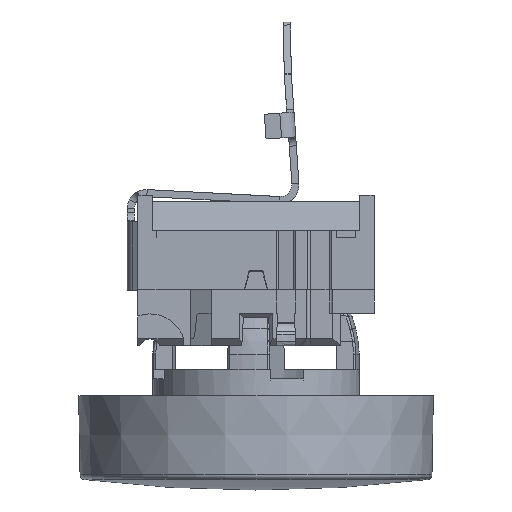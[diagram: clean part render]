
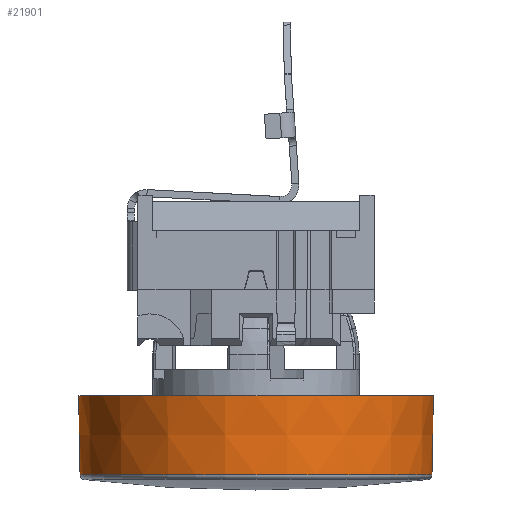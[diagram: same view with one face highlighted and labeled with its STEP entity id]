
A CAD part, left-side view. The second image highlights one B-rep face of the part: STEP entity #21901.
In plain terms, the highlighted conical face has half-angle 1 degrees and reference radius 7.45 mm.
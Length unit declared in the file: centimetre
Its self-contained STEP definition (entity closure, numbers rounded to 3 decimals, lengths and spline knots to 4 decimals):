
#991=FACE_BOUND($,#3081,.T.);
#1058=CONICAL_SURFACE($,#23163,0.745,1.);
#1232=CIRCLE($,#23160,0.7512);
#1234=CIRCLE($,#23164,0.7453);
#1929=FACE_OUTER_BOUND($,#3080,.T.);
#3080=EDGE_LOOP($,(#14488));
#3081=EDGE_LOOP($,(#14489));
#8445=VERTEX_POINT($,#33605);
#8447=VERTEX_POINT($,#33611);
#10742=EDGE_CURVE($,#8445,#8445,#1232,.T.);
#10744=EDGE_CURVE($,#8447,#8447,#1234,.T.);
#14488=ORIENTED_EDGE($,*,*,#10742,.F.);
#14489=ORIENTED_EDGE($,*,*,#10744,.T.);
#21901=ADVANCED_FACE($,(#1929,#991),#1058,.T.);
#23160=AXIS2_PLACEMENT_3D($,#33606,#25430,#25431);
#23163=AXIS2_PLACEMENT_3D($,#33610,#25436,#25437);
#23164=AXIS2_PLACEMENT_3D($,#33612,#25438,#25439);
#25430=DIRECTION('center_axis',(0.,0.,
1.));
#25431=DIRECTION('ref_axis',(0.,-1.,0.));
#25436=DIRECTION('center_axis',(0.,0.,
1.));
#25437=DIRECTION('ref_axis',(0.,-1.,0.));
#25438=DIRECTION('center_axis',(0.,0.,
1.));
#25439=DIRECTION('ref_axis',(0.,1.,0.));
#33605=CARTESIAN_POINT('',(0.,0.7512,-0.449));
#33606=CARTESIAN_POINT('Origin',(0.,0.,
-0.449));
#33610=CARTESIAN_POINT('Origin',(0.,0.,
-0.8026));
#33611=CARTESIAN_POINT('',(0.,-0.7453,-0.7852));
#33612=CARTESIAN_POINT('Origin',(0.,0.,
-0.7852));
